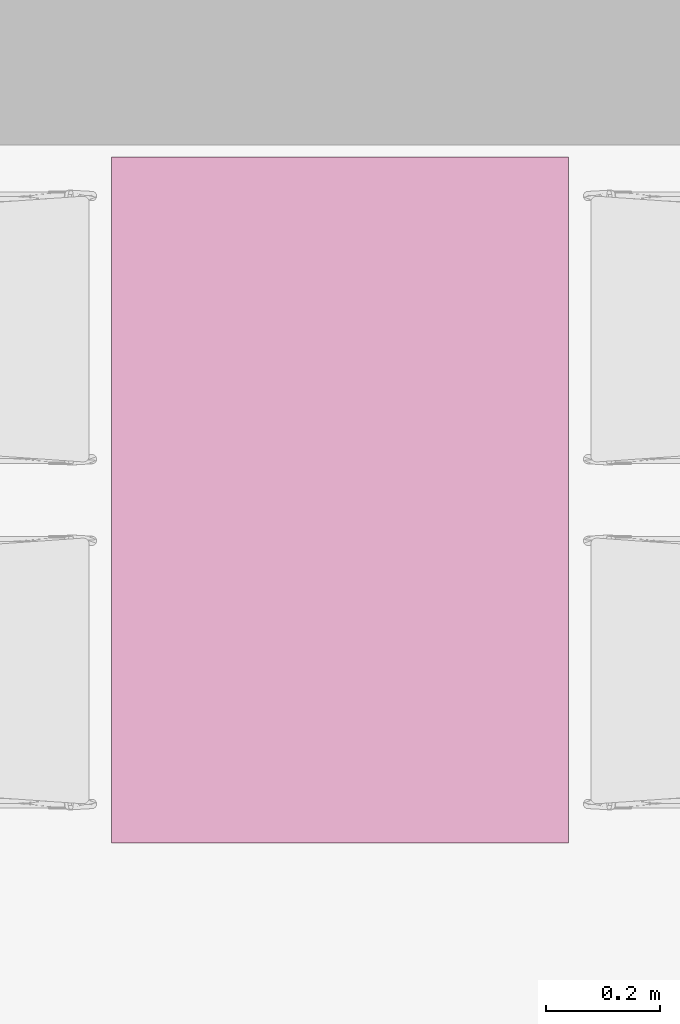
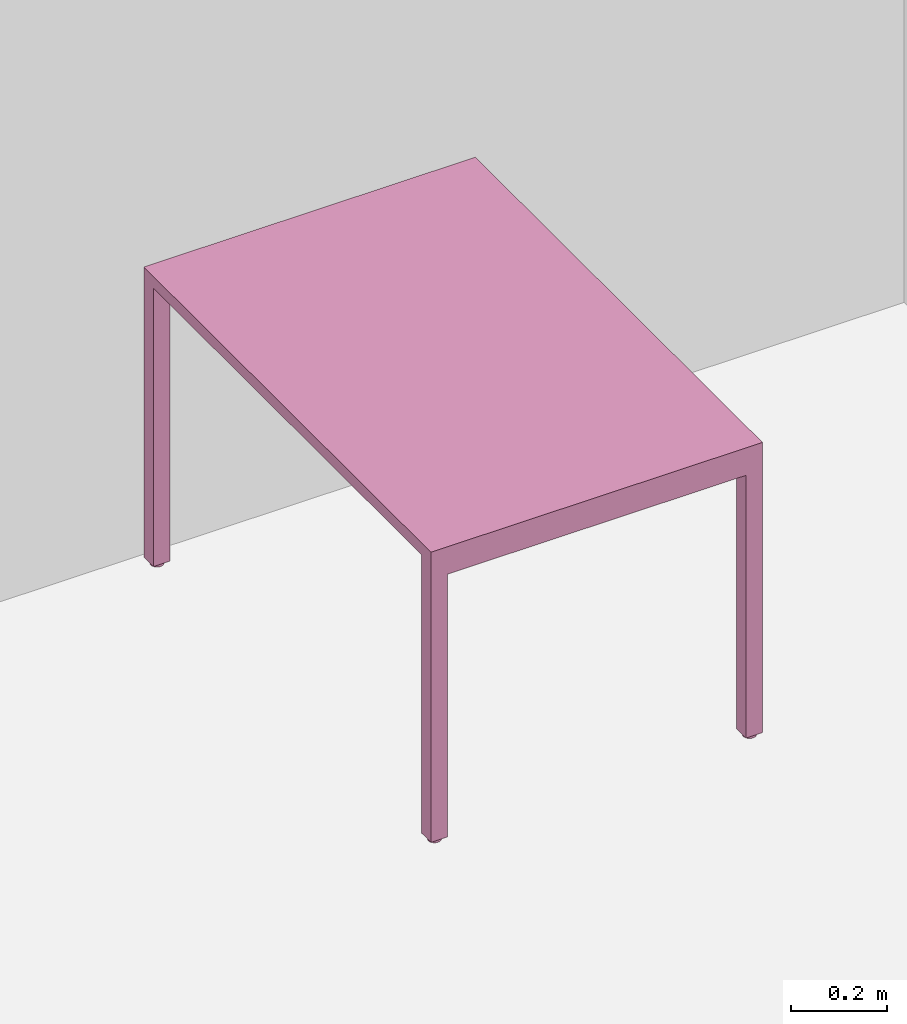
# One storey, part 38 of 48: 1 furnishing.
"""IFC2X3 building model written with IfcOpenShell, lengths in millimetres."""

import ifcopenshell
import ifcopenshell.guid

model = None  # the IFC model being written
_history = None  # IfcOwnerHistory: only IFC2X3 demands one
_inside = {}  # id of a spatial element -> (the spatial element, [elements in it])
_under = {}  # id of a project, library or spatial element -> (it, [spatial elements below it])
_declared = {}  # id of a project -> (the project, [libraries it declares])
_typed = {}  # id of a type object -> (the type object, [elements of that type])
_made_of = {}  # id of a material, layer set ... -> (it, [elements and type objects made of it])


def new_model(schema):
    """Start an empty IFC model of exactly this schema.

    Asked for "IFC4X3", IfcOpenShell would pick the latest addendum, in which some entities
    have other attributes; the version numbers below select the first issue.
    IFC2X3 requires an IfcOwnerHistory on every rooted entity: one is made here for all.
    """
    global model, _history
    if schema == "IFC4X3":
        model = ifcopenshell.file(schema_version=(4, 3, 0, 0))
    else:
        model = ifcopenshell.file(schema=schema)
    _inside.clear()
    _under.clear()
    _declared.clear()
    _typed.clear()
    _made_of.clear()
    _history = None
    if model.schema == "IFC2X3":
        org = make("IfcOrganization", Name="unknown")
        user = make(
            "IfcPersonAndOrganization",
            ThePerson=make("IfcPerson", FamilyName="unknown"),
            TheOrganization=org,
        )
        app = make(
            "IfcApplication",
            ApplicationDeveloper=org,
            Version="unknown",
            ApplicationFullName="unknown",
            ApplicationIdentifier="unknown",
        )
        _history = make(
            "IfcOwnerHistory",
            OwningUser=user,
            OwningApplication=app,
            ChangeAction="ADDED",
            CreationDate=0,
        )
    return model


def make(cls, **values):
    """One entity of the class cls with the attributes given. An attribute that is None is left unset."""
    return model.create_entity(
        cls, **{name: value for name, value in values.items() if value is not None}
    )


def entity(cls, *values):
    """Any entity or typed value of the class cls, its attributes in the order of the schema. None: left unset."""
    e = model.create_entity(cls)
    for i, value in enumerate(values):
        if value is not None:
            e[i] = value
    return e


def rooted(cls, **values):
    """An entity with a GlobalId (a new one), such as an element, a storey or a relation."""
    return make(cls, GlobalId=ifcopenshell.guid.new(), OwnerHistory=_history, **values)


def si_unit(unit_type, name, prefix=None):
    """IfcSIUnit, for example si_unit("LENGTHUNIT", "METRE", prefix="MILLI")."""
    return make("IfcSIUnit", UnitType=unit_type, Prefix=prefix, Name=name)


def converted_unit(unit_type, name, factor, base, dimensions=None, offset=None):
    """IfcConversionBasedUnit, such as the inch: factor (a typed value) times the base unit."""
    return make(
        "IfcConversionBasedUnit"
        if offset is None
        else "IfcConversionBasedUnitWithOffset",
        ConversionOffset=offset,
        Dimensions=None
        if dimensions is None
        else entity("IfcDimensionalExponents", *dimensions),
        UnitType=unit_type,
        Name=name,
        ConversionFactor=make(
            "IfcMeasureWithUnit", ValueComponent=factor, UnitComponent=base
        ),
    )


def derived_unit(unit_type, elements):
    """IfcDerivedUnit: a product of units, each with its exponent."""
    return make(
        "IfcDerivedUnit",
        Elements=[
            make("IfcDerivedUnitElement", Unit=unit, Exponent=power)
            for unit, power in elements
        ],
        UnitType=unit_type,
    )


def assignment(units):
    """IfcUnitAssignment: the units of a project."""
    return None if units is None else make("IfcUnitAssignment", Units=units)


def point(xyz):
    """IfcCartesianPoint."""
    return None if xyz is None else make("IfcCartesianPoint", Coordinates=xyz)


def direction(xyz):
    """IfcDirection."""
    return None if xyz is None else make("IfcDirection", DirectionRatios=xyz)


def frame(location, z_axis=None, x_axis=None):
    """IfcAxis2Placement3D, a coordinate frame: its origin and axes. An axis left out is left unset."""
    return make(
        "IfcAxis2Placement3D",
        Location=point(location),
        Axis=direction(z_axis),
        RefDirection=direction(x_axis),
    )


def frame_2d(location, x_axis=None):
    """IfcAxis2Placement2D, a coordinate frame in the plane: its origin and x axis."""
    return make(
        "IfcAxis2Placement2D", Location=point(location), RefDirection=direction(x_axis)
    )


def origin():
    """The frame at (0, 0, 0) with its axes left unset."""
    return frame((0.0, 0.0, 0.0))


def origin_2d_with_axis():
    """The frame at (0, 0) in the plane with the x axis (1, 0) written out."""
    return frame_2d((0.0, 0.0), x_axis=(1.0, 0.0))


def place(relative_to, where):
    """IfcLocalPlacement: puts the frame where relative to a parent placement (None: the world)."""
    return make(
        "IfcLocalPlacement", PlacementRelTo=relative_to, RelativePlacement=where
    )


def context(
    kind, dimensions, precision=None, world=None, true_north=None, identifier=None
):
    """IfcGeometricRepresentationContext, for example the 3D "Model" context."""
    return make(
        "IfcGeometricRepresentationContext",
        ContextIdentifier=identifier,
        ContextType=kind,
        CoordinateSpaceDimension=dimensions,
        Precision=precision,
        WorldCoordinateSystem=world,
        TrueNorth=true_north,
    )


def subcontext(parent, identifier, kind, view, scale=None):
    """IfcGeometricRepresentationSubContext, for example "Body" below "Model"."""
    return make(
        "IfcGeometricRepresentationSubContext",
        ContextIdentifier=identifier,
        ContextType=kind,
        ParentContext=parent,
        TargetScale=scale,
        TargetView=view,
    )


def project(units=None, contexts=None):
    """IfcProject with its units and contexts."""
    return rooted(
        "IfcProject",
        Name="project",
        RepresentationContexts=contexts,
        UnitsInContext=assignment(units),
    )


def spatial(cls, under=None, at=None, **own):
    """A site, building, storey or space (cls), placed at a placement, below another one or the project."""
    s = rooted(cls, ObjectPlacement=at, **own)
    if under is not None:
        _under.setdefault(under.id(), (under, []))[1].append(s)
    return s


def polyline(points):
    """IfcPolyline through the points."""
    return make("IfcPolyline", Points=[point(p) for p in points])


def profile(cls, at=None, kind="AREA", **sizes):
    """A parametric profile (cls). Its sizes go by their IFC names, for example OverallWidth=200.0."""
    return make(cls, ProfileType=kind, Position=at, **sizes)


def rectangle(**sizes):
    """IfcRectangleProfileDef."""
    return profile("IfcRectangleProfileDef", **sizes)


def circle(**sizes):
    """IfcCircleProfileDef."""
    return profile("IfcCircleProfileDef", **sizes)


def outline(outer, holes=None, kind="AREA"):
    """IfcArbitraryClosedProfileDef: a profile drawn as a closed curve; with holes, ...WithVoids."""
    if holes is None:
        return make("IfcArbitraryClosedProfileDef", ProfileType=kind, OuterCurve=outer)
    return make(
        "IfcArbitraryProfileDefWithVoids",
        ProfileType=kind,
        OuterCurve=outer,
        InnerCurves=holes,
    )


def extrude(swept, where, along, depth):
    """IfcExtrudedAreaSolid: the profile swept, set in the frame where, extruded along a direction by depth."""
    return make(
        "IfcExtrudedAreaSolid",
        SweptArea=swept,
        Position=where,
        ExtrudedDirection=direction(along),
        Depth=depth,
    )


def shape(context_of_items, identifier, shape_type, items):
    """IfcShapeRepresentation: the items that make up one representation, for example the "Body"."""
    return make(
        "IfcShapeRepresentation",
        ContextOfItems=context_of_items,
        RepresentationIdentifier=identifier,
        RepresentationType=shape_type,
        Items=items,
    )


def source(mapping_origin, context_of_items, identifier, shape_type, items):
    """IfcRepresentationMap: a shape defined once, which mapped items show again and again."""
    return make(
        "IfcRepresentationMap",
        MappingOrigin=mapping_origin,
        MappedRepresentation=shape(context_of_items, identifier, shape_type, items),
    )


def transform(
    local_origin,
    x_axis=None,
    y_axis=None,
    z_axis=None,
    scale=None,
    scale2=None,
    scale3=None,
    uniform=True,
):
    """IfcCartesianTransformationOperator3D, or its non-uniform kind. x_axis, y_axis, z_axis: its Axis1, 2, 3."""
    if uniform:
        return make(
            "IfcCartesianTransformationOperator3D",
            Axis1=direction(x_axis),
            Axis2=direction(y_axis),
            LocalOrigin=point(local_origin),
            Scale=scale,
            Axis3=direction(z_axis),
        )
    return make(
        "IfcCartesianTransformationOperator3DnonUniform",
        Axis1=direction(x_axis),
        Axis2=direction(y_axis),
        LocalOrigin=point(local_origin),
        Scale=scale,
        Axis3=direction(z_axis),
        Scale2=scale2,
        Scale3=scale3,
    )


def mapped(mapping_source, mapping_target):
    """IfcMappedItem: shows the shape of a source again, moved by a transform."""
    return make(
        "IfcMappedItem", MappingSource=mapping_source, MappingTarget=mapping_target
    )


def material(Name=None, Category=None):
    """IfcMaterial."""
    return make("IfcMaterial", Name=Name, Category=Category)


def material_list(materials):
    """IfcMaterialList."""
    return make("IfcMaterialList", Materials=materials)


def made_of(thing, what):
    """Note that an element or type object is made of a material, layer set ...; save() writes the relation."""
    if what is not None:
        _made_of.setdefault(what.id(), (what, []))[1].append(thing)
    return thing


def type_object(cls, material=None, **own):
    """A type object (cls), such as IfcWallType, which elements share."""
    return made_of(rooted(cls, **own), material)


def type_shapes(of_type, sources):
    """Give a type object the sources (RepresentationMaps) that its elements show as mapped items."""
    of_type.RepresentationMaps = sources


def element(
    cls,
    number,
    at=None,
    inside=None,
    cuts=None,
    type_object=None,
    material=None,
    context=None,
    identifier="Body",
    shape_type=None,
    held_by="IfcProductDefinitionShape",
    body=None,
    shapes=None,
    **own,
):
    """One element of the class cls, such as IfcWall. Its Tag is "e" and its number.

    at: its placement. inside: the storey or other place that contains it. cuts: it is an
    opening in that element (IfcRelVoidsElement). A single representation is given by context,
    identifier, shape_type and body (its items); several are given by shapes. held_by: the class
    of the entity that holds the representations. save() writes the other relations.
    """
    e = rooted(cls, Tag="e%d" % number, ObjectPlacement=at, **own)
    if body is not None:
        shapes = [shape(context, identifier, shape_type, body)]
    if shapes is not None:
        e.Representation = make(held_by, Representations=shapes)
    if inside is not None:
        _inside.setdefault(inside.id(), (inside, []))[1].append(e)
    if cuts is not None:
        rooted(
            "IfcRelVoidsElement", RelatingBuildingElement=cuts, RelatedOpeningElement=e
        )
    if type_object is not None:
        _typed.setdefault(type_object.id(), (type_object, []))[1].append(e)
    return made_of(e, material)


def aggregate(whole, parts):
    """IfcRelAggregates: a whole, such as a stair, and the parts it consists of."""
    return rooted("IfcRelAggregates", RelatingObject=whole, RelatedObjects=parts)


def save(model, path):
    """Write the relations noted so far, then the file.

    IfcRelAggregates (storeys below a building ...), IfcRelContainedInSpatialStructure (elements
    in a storey), IfcRelDefinesByType, IfcRelAssociatesMaterial and IfcRelDeclares: one each for
    every whole, place, type object, material and project.
    """
    for whole, parts in _under.values():
        aggregate(whole, parts)
    for where, things in _inside.values():
        rooted(
            "IfcRelContainedInSpatialStructure",
            RelatedElements=things,
            RelatingStructure=where,
        )
    for kind, things in _typed.values():
        rooted("IfcRelDefinesByType", RelatedObjects=things, RelatingType=kind)
    for what, things in _made_of.values():
        rooted("IfcRelAssociatesMaterial", RelatedObjects=things, RelatingMaterial=what)
    for by, libraries in _declared.values():
        rooted("IfcRelDeclares", RelatingContext=by, RelatedDefinitions=libraries)
    model.write(path)


model = new_model("IFC2X3")

# Units and contexts
model_context = context("Model", 3, precision=0.01, world=origin(), true_north=direction((6.12303176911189e-17, 1.0)))
body_context = subcontext(model_context, "Body", "Model", "MODEL_VIEW")
ifc_project = project(units=[si_unit("LENGTHUNIT", "METRE", prefix="MILLI"), si_unit("AREAUNIT", "SQUARE_METRE"), si_unit("VOLUMEUNIT", "CUBIC_METRE"), converted_unit("PLANEANGLEUNIT", "DEGREE", entity("IfcRatioMeasure", 0.0174532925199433), si_unit("PLANEANGLEUNIT", "RADIAN"), dimensions=[0, 0, 0, 0, 0, 0, 0]), si_unit("MASSUNIT", "GRAM", prefix="KILO"), derived_unit("MASSDENSITYUNIT", [(si_unit("MASSUNIT", "GRAM", prefix="KILO"), 1), (si_unit("LENGTHUNIT", "METRE"), -3)]), si_unit("TIMEUNIT", "SECOND"), si_unit("FREQUENCYUNIT", "HERTZ"), si_unit("THERMODYNAMICTEMPERATUREUNIT", "DEGREE_CELSIUS"), derived_unit("THERMALTRANSMITTANCEUNIT", [(si_unit("MASSUNIT", "GRAM", prefix="KILO"), 1), (si_unit("THERMODYNAMICTEMPERATUREUNIT", "KELVIN"), -1), (si_unit("TIMEUNIT", "SECOND"), -3)]), derived_unit("VOLUMETRICFLOWRATEUNIT", [(si_unit("LENGTHUNIT", "METRE"), 3), (si_unit("TIMEUNIT", "SECOND"), -1)]), si_unit("ELECTRICCURRENTUNIT", "AMPERE"), si_unit("ELECTRICVOLTAGEUNIT", "VOLT"), si_unit("POWERUNIT", "WATT"), si_unit("FORCEUNIT", "NEWTON", prefix="KILO"), si_unit("ILLUMINANCEUNIT", "LUX"), si_unit("LUMINOUSFLUXUNIT", "LUMEN"), si_unit("LUMINOUSINTENSITYUNIT", "CANDELA"), derived_unit("USERDEFINED", [(si_unit("MASSUNIT", "GRAM", prefix="KILO"), -1), (si_unit("LENGTHUNIT", "METRE"), -2), (si_unit("TIMEUNIT", "SECOND"), 3), (si_unit("LUMINOUSFLUXUNIT", "LUMEN"), 1)]), derived_unit("LINEARVELOCITYUNIT", [(si_unit("LENGTHUNIT", "METRE"), 1), (si_unit("TIMEUNIT", "SECOND"), -1)]), si_unit("PRESSUREUNIT", "PASCAL"), derived_unit("USERDEFINED", [(si_unit("LENGTHUNIT", "METRE"), -2), (si_unit("MASSUNIT", "GRAM", prefix="KILO"), 1), (si_unit("TIMEUNIT", "SECOND"), -2)]), derived_unit("LINEARFORCEUNIT", [(si_unit("MASSUNIT", "GRAM", prefix="KILO"), 1), (si_unit("LENGTHUNIT", "METRE"), 1), (si_unit("TIMEUNIT", "SECOND"), -2), (si_unit("LENGTHUNIT", "METRE"), -1)]), derived_unit("PLANARFORCEUNIT", [(si_unit("MASSUNIT", "GRAM", prefix="KILO"), 1), (si_unit("LENGTHUNIT", "METRE"), 1), (si_unit("TIMEUNIT", "SECOND"), -2), (si_unit("LENGTHUNIT", "METRE"), -2)])], contexts=[model_context])

# Site, building, storey, space
site_placement = place(None, origin())
site = spatial("IfcSite", under=ifc_project, at=site_placement, Name="Default", CompositionType="ELEMENT")
building_placement = place(site_placement, origin())
building = spatial("IfcBuilding", under=site, at=building_placement, Name="SMA ARH", CompositionType="ELEMENT")
storey_placement = place(building_placement, frame((0.0, 0.0, 3300.0)))
storey = spatial("IfcBuildingStorey", under=building, at=storey_placement, Name="2 Korrus", CompositionType="ELEMENT", Elevation=3299.99999999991)
space_placement = place(storey_placement, origin())
space = spatial("IfcSpace", under=storey, at=space_placement, Name="2-10", CompositionType="ELEMENT", InteriorOrExteriorSpace="INTERNAL")

# Furnishing
ifc_material_1 = material(Name="Metal - Stud Layer")
ifc_material_2 = material(Name="<Unnamed>")
ifc_material_list = material_list([ifc_material_1, ifc_material_2])
furniture_type = type_object("IfcFurnitureType", Name="laud_1200x800:laud_1200x800", material=ifc_material_list)
shared_shape = source(origin(), body_context, "Body", "SweptSolid", [
    extrude(rectangle(XDim=800.0, YDim=1200.0, at=origin_2d_with_axis()), frame((-150.0, 550.0, 720.0), z_axis=(0.0, 0.0, 1.0), x_axis=(-1.0, 0.0, 0.0)), (0.0, 0.0, 1.0), 29.9999999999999),
    extrude(outline(polyline([(-400.0, -365.0), (400.0, -365.0), (400.0, 345.0), (360.0, 345.0), (360.0, -325.0), (-360.0, -325.0), (-360.0, 345.0), (-400.0, 345.0), (-400.0, -365.0)])), frame((-150.0, -50.0, 355.0), z_axis=(0.0, 1.0, 0.0), x_axis=(1.0, 0.0, 0.0)), (0.0, 0.0, 1.0), 40.0000000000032),
    extrude(outline(polyline([(-400.0, -365.0), (400.0, -365.0), (400.0, 345.0), (360.0, 345.0), (360.0, -325.0), (-360.0, -325.0), (-360.0, 345.0), (-400.0, 345.0), (-400.0, -365.0)])), frame((-150.0, 1110.0, 355.0), z_axis=(0.0, 1.0, 0.0), x_axis=(1.0, 0.0, 0.0)), (0.0, 0.0, 1.0), 40.0000000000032),
    extrude(circle(Radius=15.0, at=frame_2d((0.0, 5.07593966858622e-14), x_axis=(1.0, 0.0))), frame((-529.847171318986, -29.9550233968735, 0.0)), (0.0, 0.0, 1.0), 10.0),
    extrude(circle(Radius=15.0, at=origin_2d_with_axis()), frame((-529.847171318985, 1129.95502339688, 0.0)), (0.0, 0.0, 1.0), 10.0),
    extrude(circle(Radius=15.0, at=origin_2d_with_axis()), frame((230.152828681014, -29.9550233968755, 0.0)), (0.0, 0.0, 1.0), 10.0),
    extrude(circle(Radius=15.0, at=origin_2d_with_axis()), frame((230.152828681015, 1129.95502339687, 0.0)), (0.0, 0.0, 1.0), 10.0),
])
type_shapes(furniture_type, [shared_shape])
furnishing_placement = place(space_placement, frame((27034.0, 4828.49999999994, 0.0)))
element("IfcFurnishingElement", 1, at=furnishing_placement, inside=space, type_object=furniture_type, material=ifc_material_1, Name="laud_1200x800:laud_1200x800", ObjectType="laud_1200x800:laud_1200x800", context=body_context, shape_type="MappedRepresentation", body=[
    mapped(shared_shape, transform((0.0, 0.0, 0.0), scale=1.0)),
])

save(model, "model.ifc")
